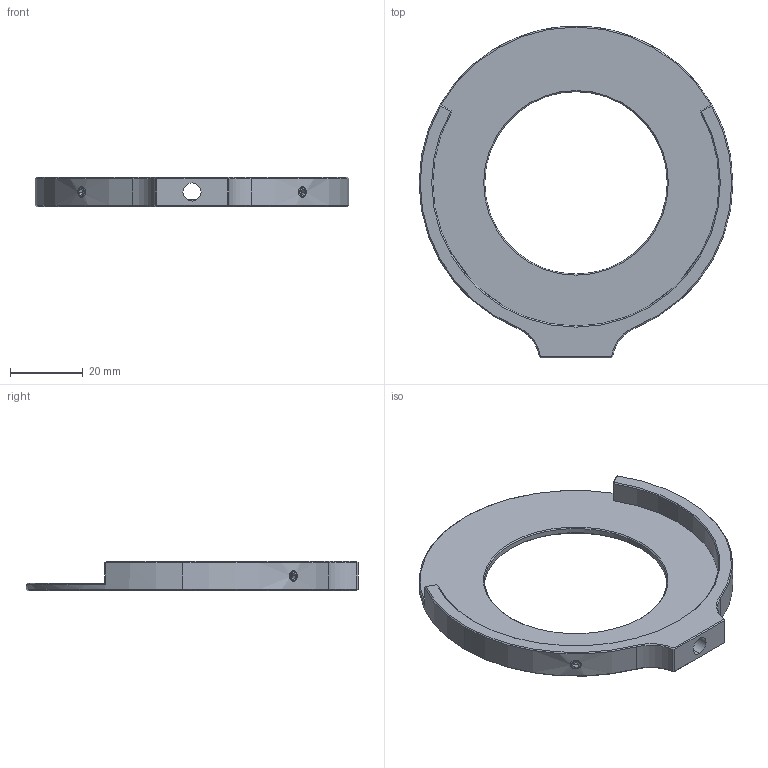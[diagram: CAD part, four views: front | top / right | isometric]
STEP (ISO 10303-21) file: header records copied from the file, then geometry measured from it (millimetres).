
FILE_DESCRIPTION (( 'STEP AP203' ), '1' );
FILE_NAME ('APID50Z-AGD.step', '2019-05-09T08:55:06', ( '' ), ( '' ), 'SwSTEP 2.0', 'SolidWorks 2016', '' );
FILE_SCHEMA (( 'CONFIG_CONTROL_DESIGN' ));
Length unit declared in the file: millimetre
Products named in the file (1): APID50Z-AGD
Bounding box: 86 x 91 x 8 mm (x, y, z)
Surface area: 10971.8 mm2 (no closed solid volume)
Topology: 0 solids, 14 shells, 106 faces, 513 edges, 413 vertices
Faces by surface type: plane 60, cone 26, cylinder 20
Entity records: 5328 total; most frequent: CARTESIAN_POINT 1271, DIRECTION 769, ORIENTED_EDGE 707, EDGE_CURVE 509, LINE 419, VECTOR 419, VERTEX_POINT 413, AXIS2_PLACEMENT_3D 175
